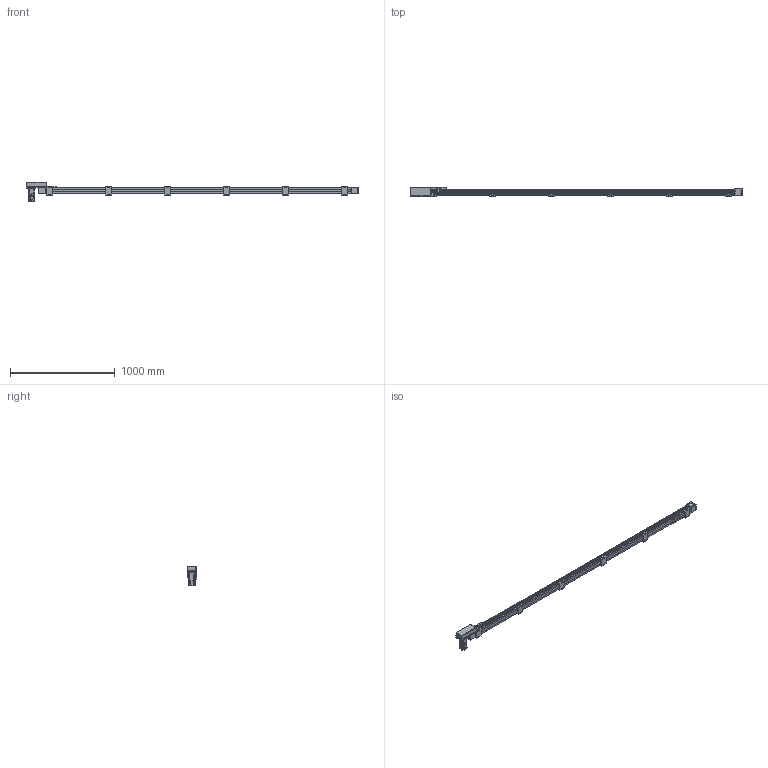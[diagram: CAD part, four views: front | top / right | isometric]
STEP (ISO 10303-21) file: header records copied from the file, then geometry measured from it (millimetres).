
FILE_DESCRIPTION(/* description */ ('STEP AP214'),/* implementation_level */ '2;1');
FILE_NAME(/* name */ 'SK60-P13-S2750-R-T40-C1-N(0)',/* time_stamp */ '2023-04-06T04:28:56+02:00',/* author */ ('License CC BY-ND 4.0'),/* organization */ ('CADENAS'),/* preprocessor_version */ 'ST-DEVELOPER v19.3',/* originating_system */ 'PARTsolutions',/* authorisation */ ' ');
FILE_SCHEMA (('AUTOMOTIVE_DESIGN {1 0 10303 214 3 1 1}'));
Length unit declared in the file: millimetre
Products named in the file (10): SK60-P13-S2750-R-T40-C1-N(0); PSC140-sensor; SK60-S450_seat; SK60-S450-BL-C1_slider; SK60_body3; SK60_body6; SK60-BL_body2; T40-p1; SK60-R_fb; SK60-S2750-R-C1_body
Assembly tree (20 placements, depth 2):
  SK60-P13-S2750-R-T40-C1-N(0)
    PSC140-sensor  x3
    SK60-S450_seat  x6
    SK60-S450-BL-C1_slider
    SK60_body3  x3
    SK60_body6  x2
    SK60-BL_body2  x2
    T40-p1
    SK60-R_fb
    SK60-S2750-R-C1_body
Bounding box: 3170.5 x 90 x 189.7 mm (x, y, z)
Volume: 11578531.7 mm3; surface area: 1360328.7 mm2
Topology: 20 solids, 20 shells, 986 faces, 2440 edges, 1605 vertices
Faces by surface type: plane 620, cylinder 326, cone 38, torus 2
Full cylindrical faces by diameter (mm): 2.8 x3, 3.3 x4, 4 x2, 4.5 x30, 4.6 x3, 4.917 x32, 5 x6, 5.478 x4, 5.5 x35, 6.5 x12, 7 x2, 8 x4, 8.5 x4, 9.988 x4, 10 x24, 14 x1, 47 x3, 50 x2
Entity records: 18687 total; most frequent: DIRECTION 3192, CARTESIAN_POINT 3154, ORIENTED_EDGE 2940, EDGE_CURVE 1470, AXIS2_PLACEMENT_3D 1072, LINE 1048, VECTOR 1048, VERTEX_POINT 1034
